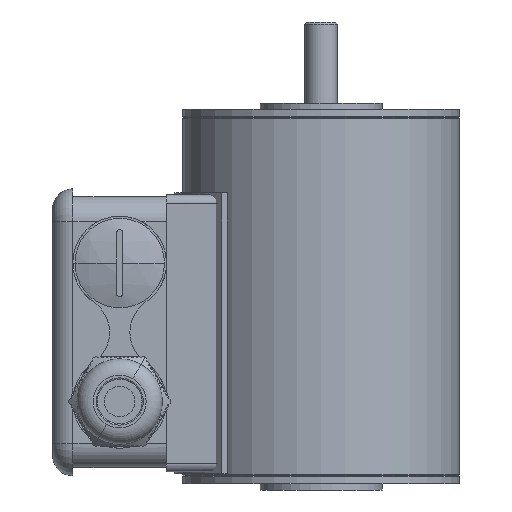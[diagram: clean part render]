
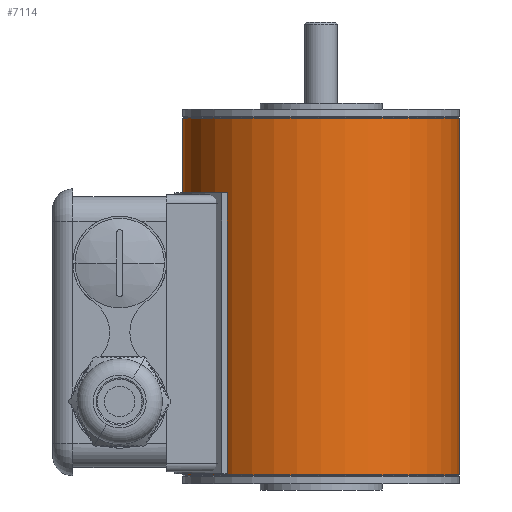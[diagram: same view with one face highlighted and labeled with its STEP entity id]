
A CAD part, front view. The second image highlights one B-rep face of the part: STEP entity #7114.
In plain terms, the highlighted cylindrical face has radius 34 mm (diameter 68 mm), a partial arc.
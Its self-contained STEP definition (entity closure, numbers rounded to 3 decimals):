
#7109 = EDGE_LOOP ( 'NONE', ( #7227, #7273, #7276, #7275 ) ) ;
#7111 = EDGE_CURVE ( 'NONE', #7146, #7175, #14802, .T. ) ;
#7114 = ADVANCED_FACE ( 'NONE', ( #14804 ), #14713, .T. ) ;
#7146 = VERTEX_POINT ( 'NONE', #14878 ) ;
#7175 = VERTEX_POINT ( 'NONE', #14892 ) ;
#7176 = EDGE_CURVE ( 'NONE', #7217, #7146, #14919, .T. ) ;
#7184 = EDGE_CURVE ( 'NONE', #7259, #7175, #15018, .T. ) ;
#7217 = VERTEX_POINT ( 'NONE', #14956 ) ;
#7227 = ORIENTED_EDGE ( 'NONE', *, *, #7176, .F. ) ;
#7231 = EDGE_CURVE ( 'NONE', #7217, #7259, #15080, .T. ) ;
#7259 = VERTEX_POINT ( 'NONE', #15139 ) ;
#7273 = ORIENTED_EDGE ( 'NONE', *, *, #7231, .T. ) ;
#7275 = ORIENTED_EDGE ( 'NONE', *, *, #7111, .F. ) ;
#7276 = ORIENTED_EDGE ( 'NONE', *, *, #7184, .T. ) ;
#14684 = CARTESIAN_POINT ( 'NONE',  ( 0., 0., 0. ) ) ;
#14691 = DIRECTION ( 'NONE',  ( 1., 0., 0. ) ) ;
#14692 = DIRECTION ( 'NONE',  ( 0., 0., 1. ) ) ;
#14697 = AXIS2_PLACEMENT_3D ( 'NONE', #14684, #14692, #14691 ) ;
#14702 = VECTOR ( 'NONE', #14724, 1000. ) ;
#14713 = CYLINDRICAL_SURFACE ( 'NONE', #14697, 34. ) ;
#14724 = DIRECTION ( 'NONE',  ( 0., 0., 1. ) ) ;
#14771 = CARTESIAN_POINT ( 'NONE',  ( 0., 0., -23.7 ) ) ;
#14799 = DIRECTION ( 'NONE',  ( 1., 0., 0. ) ) ;
#14800 = DIRECTION ( 'NONE',  ( 0., 0., 1. ) ) ;
#14801 = AXIS2_PLACEMENT_3D ( 'NONE', #14771, #14800, #14799 ) ;
#14802 = CIRCLE ( 'NONE', #14801, 34. ) ;
#14804 = FACE_OUTER_BOUND ( 'NONE', #7109, .T. ) ;
#14878 = CARTESIAN_POINT ( 'NONE',  ( -34., 0., -23.7 ) ) ;
#14891 = CARTESIAN_POINT ( 'NONE',  ( -34., 0., 0. ) ) ;
#14892 = CARTESIAN_POINT ( 'NONE',  ( 34., 0., -23.7 ) ) ;
#14919 = LINE ( 'NONE', #14891, #14702 ) ;
#14956 = CARTESIAN_POINT ( 'NONE',  ( -34., 0., -111.3 ) ) ;
#15018 = LINE ( 'NONE', #15024, #15023 ) ;
#15022 = DIRECTION ( 'NONE',  ( 0., 0., 1. ) ) ;
#15023 = VECTOR ( 'NONE', #15022, 1000. ) ;
#15024 = CARTESIAN_POINT ( 'NONE',  ( 34., 0., 0. ) ) ;
#15052 = CARTESIAN_POINT ( 'NONE',  ( 0., 0., -111.3 ) ) ;
#15061 = DIRECTION ( 'NONE',  ( 0., 0., 1. ) ) ;
#15068 = DIRECTION ( 'NONE',  ( 1., 0., 0. ) ) ;
#15079 = AXIS2_PLACEMENT_3D ( 'NONE', #15052, #15061, #15068 ) ;
#15080 = CIRCLE ( 'NONE', #15079, 34. ) ;
#15139 = CARTESIAN_POINT ( 'NONE',  ( 34., 0., -111.3 ) ) ;
